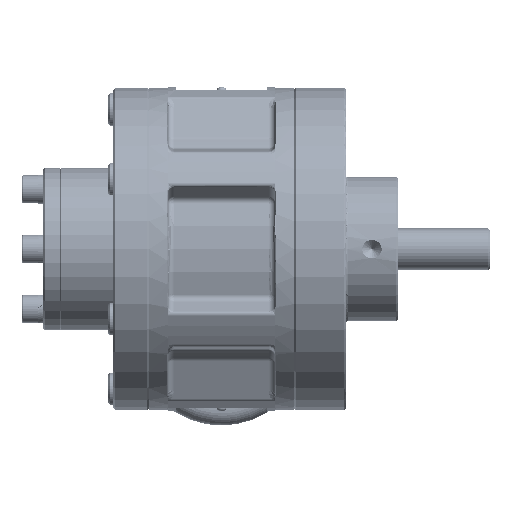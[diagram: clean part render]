
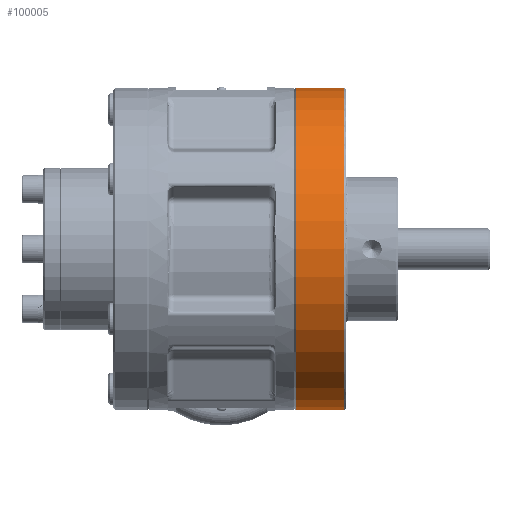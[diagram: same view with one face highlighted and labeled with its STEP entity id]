
A CAD part, front view. The second image highlights one B-rep face of the part: STEP entity #100005.
In plain terms, the highlighted cylindrical face has radius 49.5 mm (diameter 99 mm), a partial arc.
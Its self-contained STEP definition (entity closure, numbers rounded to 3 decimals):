
#148 = DIRECTION ( 'NONE',  ( -1., 0., 0. ) ) ;
#6650 = CARTESIAN_POINT ( 'NONE',  ( 37.8, 0., 0. ) ) ;
#9517 = CARTESIAN_POINT ( 'NONE',  ( -49.017, 0., 49.5 ) ) ;
#9567 = CYLINDRICAL_SURFACE ( 'NONE', #33088, 49.5 ) ;
#32577 = LINE ( 'NONE', #9517, #169660 ) ;
#33088 = AXIS2_PLACEMENT_3D ( 'NONE', #112507, #139232, #111966 ) ;
#34632 = FACE_OUTER_BOUND ( 'NONE', #127460, .T. ) ;
#46614 = CARTESIAN_POINT ( 'NONE',  ( 37.8, 0., -49.5 ) ) ;
#52496 = AXIS2_PLACEMENT_3D ( 'NONE', #6650, #153518, #126833 ) ;
#57143 = CARTESIAN_POINT ( 'NONE',  ( 22.8, 0., -49.5 ) ) ;
#62976 = ORIENTED_EDGE ( 'NONE', *, *, #152431, .F. ) ;
#67109 = CARTESIAN_POINT ( 'NONE',  ( 22.8, 0., 0. ) ) ;
#69016 = ORIENTED_EDGE ( 'NONE', *, *, #83870, .F. ) ;
#71786 = VERTEX_POINT ( 'NONE', #46614 ) ;
#77839 = ORIENTED_EDGE ( 'NONE', *, *, #158936, .T. ) ;
#81384 = CARTESIAN_POINT ( 'NONE',  ( -49.017, 0., -49.5 ) ) ;
#83870 = EDGE_CURVE ( 'NONE', #155008, #71786, #144077, .T. ) ;
#84400 = DIRECTION ( 'NONE',  ( 1., 0., 0. ) ) ;
#91713 = CARTESIAN_POINT ( 'NONE',  ( 37.8, 0., 49.5 ) ) ;
#99609 = LINE ( 'NONE', #81384, #145315 ) ;
#100005 = ADVANCED_FACE ( 'NONE', ( #34632 ), #9567, .T. ) ;
#102355 = DIRECTION ( 'NONE',  ( -1., 0., 0. ) ) ;
#108618 = ORIENTED_EDGE ( 'NONE', *, *, #125913, .T. ) ;
#111966 = DIRECTION ( 'NONE',  ( 0., 0., 1. ) ) ;
#112507 = CARTESIAN_POINT ( 'NONE',  ( -49.017, 0., 0. ) ) ;
#119024 = CARTESIAN_POINT ( 'NONE',  ( 22.8, 0., 49.5 ) ) ;
#124492 = DIRECTION ( 'NONE',  ( 0., 0., 1. ) ) ;
#125913 = EDGE_CURVE ( 'NONE', #155008, #126520, #32577, .T. ) ;
#126046 = AXIS2_PLACEMENT_3D ( 'NONE', #67109, #84400, #124492 ) ;
#126520 = VERTEX_POINT ( 'NONE', #119024 ) ;
#126833 = DIRECTION ( 'NONE',  ( 0., 0., 1. ) ) ;
#127460 = EDGE_LOOP ( 'NONE', ( #62976, #69016, #108618, #77839 ) ) ;
#139232 = DIRECTION ( 'NONE',  ( -1., 0., 0. ) ) ;
#144077 = CIRCLE ( 'NONE', #52496, 49.5 ) ;
#145315 = VECTOR ( 'NONE', #148, 1000. ) ;
#152431 = EDGE_CURVE ( 'NONE', #71786, #161078, #99609, .T. ) ;
#153518 = DIRECTION ( 'NONE',  ( 1., 0., 0. ) ) ;
#155008 = VERTEX_POINT ( 'NONE', #91713 ) ;
#158936 = EDGE_CURVE ( 'NONE', #126520, #161078, #168833, .T. ) ;
#161078 = VERTEX_POINT ( 'NONE', #57143 ) ;
#168833 = CIRCLE ( 'NONE', #126046, 49.5 ) ;
#169660 = VECTOR ( 'NONE', #102355, 1000. ) ;
